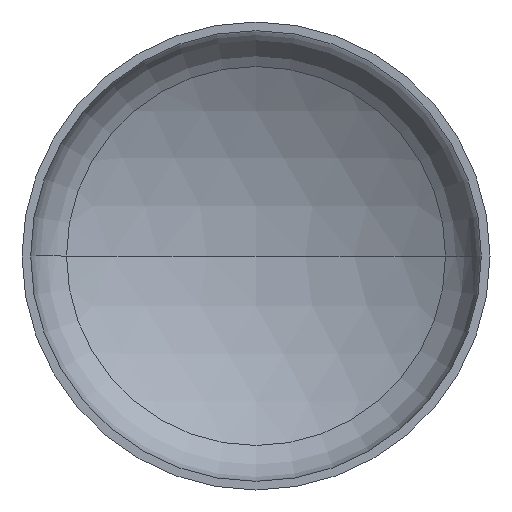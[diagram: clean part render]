
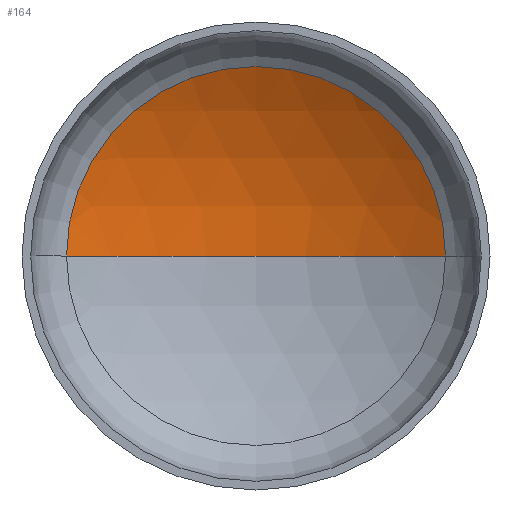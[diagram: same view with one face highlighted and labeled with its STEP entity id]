
A CAD part, front view. The second image highlights one B-rep face of the part: STEP entity #164.
In plain terms, the highlighted spherical face has radius 1600 mm.
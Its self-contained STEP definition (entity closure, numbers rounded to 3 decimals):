
#3 = VERTEX_POINT ( 'NONE', #268 ) ;
#4 = DIRECTION ( 'NONE',  ( 0., 0., -1. ) ) ;
#5 = CARTESIAN_POINT ( 'NONE',  ( 0., -992.516, 0. ) ) ;
#16 = AXIS2_PLACEMENT_3D ( 'NONE', #262, #223, #279 ) ;
#21 = AXIS2_PLACEMENT_3D ( 'NONE', #165, #188, #228 ) ;
#22 = AXIS2_PLACEMENT_3D ( 'NONE', #5, #4, #45 ) ;
#25 = AXIS2_PLACEMENT_3D ( 'NONE', #212, #395, #301 ) ;
#26 = EDGE_LOOP ( 'NONE', ( #63, #379, #168 ) ) ;
#45 = DIRECTION ( 'NONE',  ( -1., 0., 0. ) ) ;
#63 = ORIENTED_EDGE ( 'NONE', *, *, #79, .F. ) ;
#73 = EDGE_CURVE ( 'NONE', #95, #3, #211, .T. ) ;
#75 = EDGE_CURVE ( 'NONE', #306, #95, #348, .T. ) ;
#79 = EDGE_CURVE ( 'NONE', #306, #3, #120, .T. ) ;
#95 = VERTEX_POINT ( 'NONE', #229 ) ;
#120 = CIRCLE ( 'NONE', #21, 1600. ) ;
#164 = ADVANCED_FACE ( 'NONE', ( #328 ), #391, .F. ) ;
#165 = CARTESIAN_POINT ( 'NONE',  ( 0., -992.516, 0. ) ) ;
#168 = ORIENTED_EDGE ( 'NONE', *, *, #73, .T. ) ;
#188 = DIRECTION ( 'NONE',  ( 0., 0., 1. ) ) ;
#211 = CIRCLE ( 'NONE', #25, 809.922 ) ;
#212 = CARTESIAN_POINT ( 'NONE',  ( 0., 387.349, 0. ) ) ;
#223 = DIRECTION ( 'NONE',  ( 0., 0., -1. ) ) ;
#228 = DIRECTION ( 'NONE',  ( 1., 0., 0. ) ) ;
#229 = CARTESIAN_POINT ( 'NONE',  ( 809.922, 387.349, 0. ) ) ;
#262 = CARTESIAN_POINT ( 'NONE',  ( 0., -992.516, 0. ) ) ;
#268 = CARTESIAN_POINT ( 'NONE',  ( -809.922, 387.349, 0. ) ) ;
#279 = DIRECTION ( 'NONE',  ( -1., 0., 0. ) ) ;
#301 = DIRECTION ( 'NONE',  ( 1., 0., 0. ) ) ;
#306 = VERTEX_POINT ( 'NONE', #393 ) ;
#328 = FACE_OUTER_BOUND ( 'NONE', #26, .T. ) ;
#348 = CIRCLE ( 'NONE', #22, 1600. ) ;
#379 = ORIENTED_EDGE ( 'NONE', *, *, #75, .T. ) ;
#391 = SPHERICAL_SURFACE ( 'NONE', #16, 1600. ) ;
#393 = CARTESIAN_POINT ( 'NONE',  ( 0., 607.484, 0. ) ) ;
#395 = DIRECTION ( 'NONE',  ( 0., -1., 0. ) ) ;
